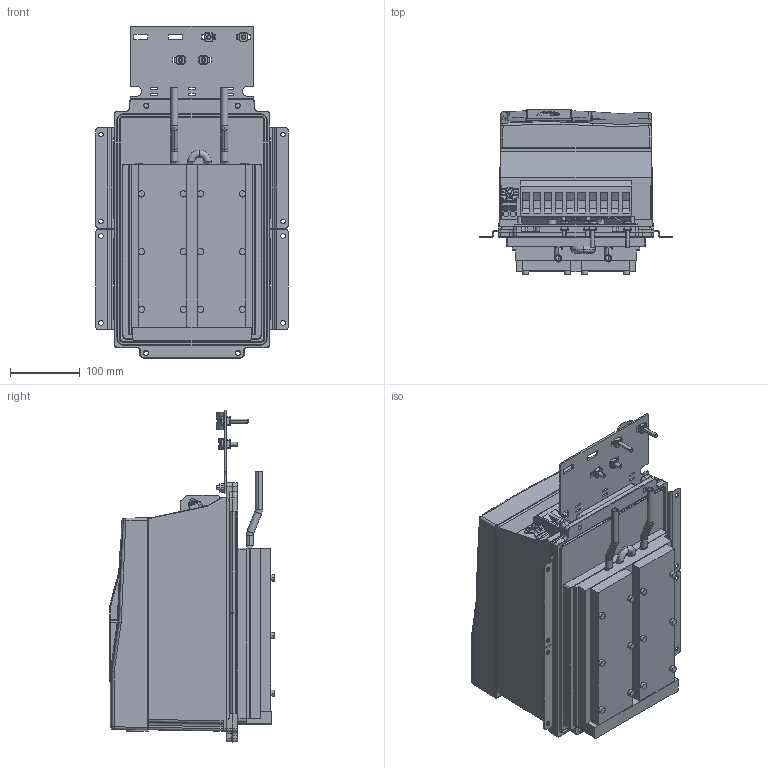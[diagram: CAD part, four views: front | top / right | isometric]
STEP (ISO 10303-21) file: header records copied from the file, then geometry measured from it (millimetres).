
FILE_DESCRIPTION (( 'STEP AP214' ), '1' );
FILE_NAME ('F6-4TW5-A031.STEP', '2020-12-10T07:33:59', ( '' ), ( '' ), 'SwSTEP 2.0', 'SolidWorks 2019', '' );
FILE_SCHEMA (( 'AUTOMOTIVE_DESIGN' ));
Length unit declared in the file: millimetre
Products named in the file (13): 10061645_000; 10063070_000; 10044453_000_Schirmung (Kundenmodell); 10045826_000_Basis Leistungsteil + Zubeh”r TW5 (Kundenmodell); 10035736_000_Kundenmodell; 10059764_000_Blindabdeckung (Kundenmodell); 10032600_000_Kundenmodell; 10058448_000; 10061644_000_Deckel (Kundenmodell); 10061789_000; 10059765_000; F6-4TW5-A031; 10059763_000
Assembly tree (12 placements, depth 4):
  F6-4TW5-A031
    10045826_000_Basis Leistungsteil + Zubeh”r TW5 (Kundenmodell)
      10061789_000
    10032600_000_Kundenmodell
      10061644_000_Deckel (Kundenmodell)
        10061645_000
      10058448_000
    10035736_000_Kundenmodell
      10059764_000_Blindabdeckung (Kundenmodell)
        10059765_000
      10059763_000
    10044453_000_Schirmung (Kundenmodell)
      10063070_000
Bounding box: 277 x 237.2 x 477.5 mm (x, y, z)
Volume: 14627559.4 mm3; surface area: 933493.7 mm2
Topology: 17 solids, 36 shells, 3701 faces, 9864 edges, 6276 vertices
Faces by surface type: plane 1667, cylinder 1065, bspline 573, torus 210, cone 138, sphere 48
Entity records: 139481 total; most frequent: CARTESIAN_POINT 49758, ORIENTED_EDGE 19610, DIRECTION 17091, EDGE_CURVE 9805, VERTEX_POINT 6274, AXIS2_PLACEMENT_3D 5795, VECTOR 5501, LINE 5501
